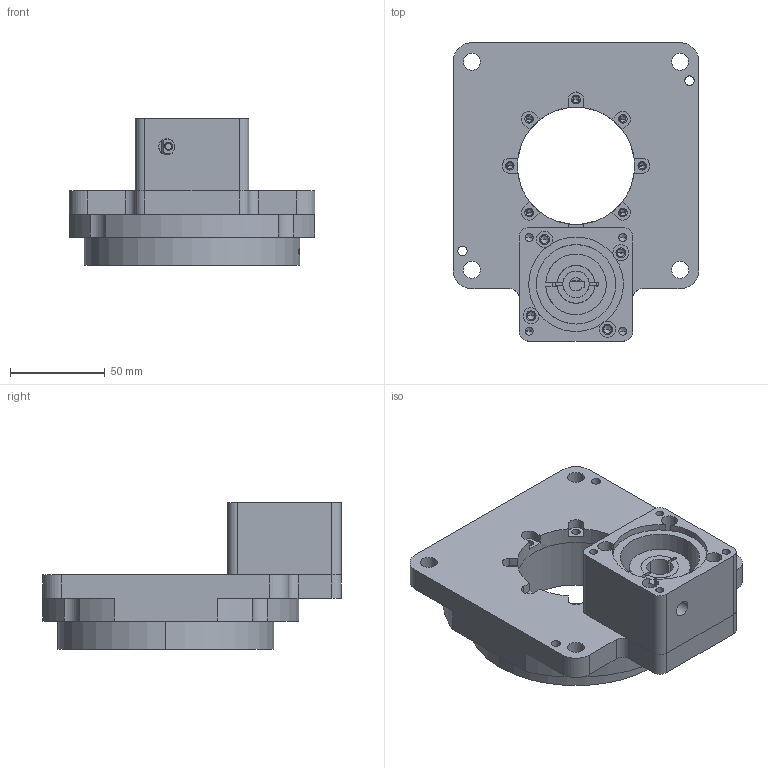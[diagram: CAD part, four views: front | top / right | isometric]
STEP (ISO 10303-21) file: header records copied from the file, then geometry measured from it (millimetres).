
FILE_DESCRIPTION (( 'STEP AP203' ), '1' );
FILE_NAME ('NDG130-18¦øªA.STEP', '2017-10-14T14:31:45', ( 'SkyUser' ), ( 'ITianKong.Com' ), 'SwSTEP 2.0', 'SolidWorks 2013', '' );
FILE_SCHEMA (( 'CONFIG_CONTROL_DESIGN' ));
Length unit declared in the file: millimetre
Products named in the file (1): NDG130-18伺服
Bounding box: 130 x 157.7 x 77.7 mm (x, y, z)
Volume: 467457.3 mm3; surface area: 134049.1 mm2
Topology: 7 solids, 7 shells, 412 faces, 1047 edges, 647 vertices
Faces by surface type: cylinder 229, plane 103, cone 68, torus 8, bspline 4
Entity records: 14401 total; most frequent: CARTESIAN_POINT 4137, DIRECTION 2305, ORIENTED_EDGE 1986, EDGE_CURVE 993, AXIS2_PLACEMENT_3D 926, VERTEX_POINT 647, EDGE_LOOP 522, CIRCLE 517
